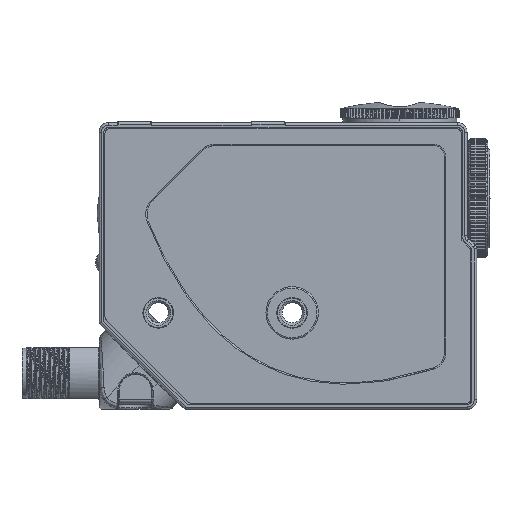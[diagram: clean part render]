
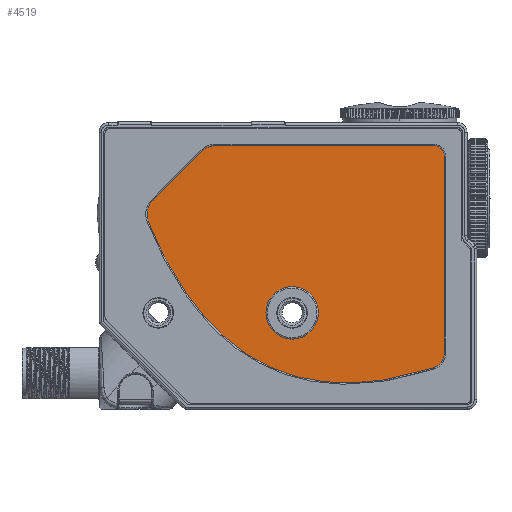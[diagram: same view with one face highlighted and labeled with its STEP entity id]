
A CAD part, front view. The second image highlights one B-rep face of the part: STEP entity #4519.
In plain terms, the highlighted planar face has unit normal (0, -1, 0).
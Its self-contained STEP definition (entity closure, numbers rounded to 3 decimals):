
#3517=PLANE('',#29439);
#4519=ADVANCED_FACE('',(#9721,#9722),#3517,.T.);
#7430=B_SPLINE_CURVE_WITH_KNOTS('',3,(#62051,#62052,#62053,#62054,#62055,
#62056,#62057,#62058,#62059,#62060,#62061,#62062,#62063,#62064),.UNSPECIFIED.,
 .F.,.F.,(4,2,2,2,2,2,4),(0.,0.25,0.375,0.5,0.625,0.75,1.),.UNSPECIFIED.);
#9721=FACE_BOUND('',#10487,.T.);
#9722=FACE_BOUND('',#10488,.T.);
#10487=EDGE_LOOP('',(#14903));
#10488=EDGE_LOOP('',(#14904,#14905,#14906,#14907,#14908,#14909,#14910,#14911));
#14903=ORIENTED_EDGE('',*,*,#25149,.F.);
#14904=ORIENTED_EDGE('',*,*,#25141,.F.);
#14905=ORIENTED_EDGE('',*,*,#25120,.F.);
#14906=ORIENTED_EDGE('',*,*,#25124,.F.);
#14907=ORIENTED_EDGE('',*,*,#25127,.F.);
#14908=ORIENTED_EDGE('',*,*,#25130,.F.);
#14909=ORIENTED_EDGE('',*,*,#25133,.F.);
#14910=ORIENTED_EDGE('',*,*,#25136,.F.);
#14911=ORIENTED_EDGE('',*,*,#25139,.F.);
#21718=VERTEX_POINT('',#61968);
#21719=VERTEX_POINT('',#61970);
#21722=VERTEX_POINT('',#61986);
#21724=VERTEX_POINT('',#62000);
#21726=VERTEX_POINT('',#62012);
#21728=VERTEX_POINT('',#62024);
#21730=VERTEX_POINT('',#62036);
#21732=VERTEX_POINT('',#62050);
#21733=VERTEX_POINT('',#62213);
#25120=EDGE_CURVE('',#21718,#21719,#28375,.T.);
#25124=EDGE_CURVE('',#21722,#21718,#28122,.T.);
#25127=EDGE_CURVE('',#21724,#21722,#28376,.T.);
#25130=EDGE_CURVE('',#21726,#21724,#28123,.T.);
#25133=EDGE_CURVE('',#21728,#21726,#28377,.T.);
#25136=EDGE_CURVE('',#21730,#21728,#28124,.T.);
#25139=EDGE_CURVE('',#21732,#21730,#7430,.T.);
#25141=EDGE_CURVE('',#21719,#21732,#28125,.T.);
#25149=EDGE_CURVE('',#21733,#21733,#28126,.T.);
#28122=CIRCLE('',#29421,2.267);
#28123=CIRCLE('',#29424,4.267);
#28124=CIRCLE('',#29427,4.267);
#28125=CIRCLE('',#29429,3.267);
#28126=CIRCLE('',#29438,5.483);
#28375=LINE('',#61969,#28612);
#28376=LINE('',#62001,#28613);
#28377=LINE('',#62025,#28614);
#28612=VECTOR('',#31582,1.);
#28613=VECTOR('',#31589,1.);
#28614=VECTOR('',#31596,1.);
#29421=AXIS2_PLACEMENT_3D('',#61987,#31585,#31586);
#29424=AXIS2_PLACEMENT_3D('',#62013,#31592,#31593);
#29427=AXIS2_PLACEMENT_3D('',#62037,#31599,#31600);
#29429=AXIS2_PLACEMENT_3D('',#62173,#31603,#31604);
#29438=AXIS2_PLACEMENT_3D('',#62212,#31621,#31622);
#29439=AXIS2_PLACEMENT_3D('',#62214,#31623,#31624);
#31582=DIRECTION('',(0.,0.,-1.));
#31585=DIRECTION('',(0.,1.,0.));
#31586=DIRECTION('',(0.,0.,1.));
#31589=DIRECTION('',(1.,0.,0.));
#31592=DIRECTION('',(0.,1.,0.));
#31593=DIRECTION('',(0.,0.,1.));
#31596=DIRECTION('',(0.707,0.,0.707));
#31599=DIRECTION('',(0.,1.,0.));
#31600=DIRECTION('',(0.,0.,1.));
#31603=DIRECTION('',(0.,1.,0.));
#31604=DIRECTION('',(0.,0.,1.));
#31621=DIRECTION('',(0.,-1.,0.));
#31622=DIRECTION('',(0.,0.,-1.));
#31623=DIRECTION('',(0.,-1.,0.));
#31624=DIRECTION('',(0.,0.,-1.));
#61968=CARTESIAN_POINT('',(33.718,0.2,22.946));
#61969=CARTESIAN_POINT('',(33.718,0.2,22.946));
#61970=CARTESIAN_POINT('',(33.718,0.2,-18.202));
#61986=CARTESIAN_POINT('',(31.451,0.2,25.213));
#61987=CARTESIAN_POINT('',(31.451,0.2,22.946));
#62000=CARTESIAN_POINT('',(-14.032,0.2,25.213));
#62001=CARTESIAN_POINT('',(-14.032,0.2,25.213));
#62012=CARTESIAN_POINT('',(-17.049,0.2,23.964));
#62013=CARTESIAN_POINT('',(-14.032,0.2,20.946));
#62024=CARTESIAN_POINT('',(-27.193,0.2,13.82));
#62025=CARTESIAN_POINT('',(-27.193,0.2,13.82));
#62036=CARTESIAN_POINT('',(-28.119,0.2,9.17));
#62037=CARTESIAN_POINT('',(-24.176,0.2,10.802));
#62050=CARTESIAN_POINT('',(31.451,0.2,-21.312));
#62051=CARTESIAN_POINT('',(31.451,0.2,-21.312));
#62052=CARTESIAN_POINT('',(25.462,0.2,-23.237));
#62053=CARTESIAN_POINT('',(19.214,0.2,-24.498));
#62054=CARTESIAN_POINT('',(9.781,0.2,-24.433));
#62055=CARTESIAN_POINT('',(6.634,0.2,-24.08));
#62056=CARTESIAN_POINT('',(0.53,0.2,-22.568));
#62057=CARTESIAN_POINT('',(-2.426,0.2,-21.416));
#62058=CARTESIAN_POINT('',(-7.932,0.2,-18.38));
#62059=CARTESIAN_POINT('',(-10.479,0.2,-16.495));
#62060=CARTESIAN_POINT('',(-15.104,0.2,-12.232));
#62061=CARTESIAN_POINT('',(-17.183,0.2,-9.854));
#62062=CARTESIAN_POINT('',(-22.791,0.2,-2.267));
#62063=CARTESIAN_POINT('',(-25.713,0.2,3.358));
#62064=CARTESIAN_POINT('',(-28.119,0.2,9.17));
#62173=CARTESIAN_POINT('',(30.451,0.2,-18.202));
#62212=CARTESIAN_POINT('',(1.9,0.2,-9.8));
#62213=CARTESIAN_POINT('',(1.9,0.2,-15.283));
#62214=CARTESIAN_POINT('',(-37.207,0.2,28.707));
